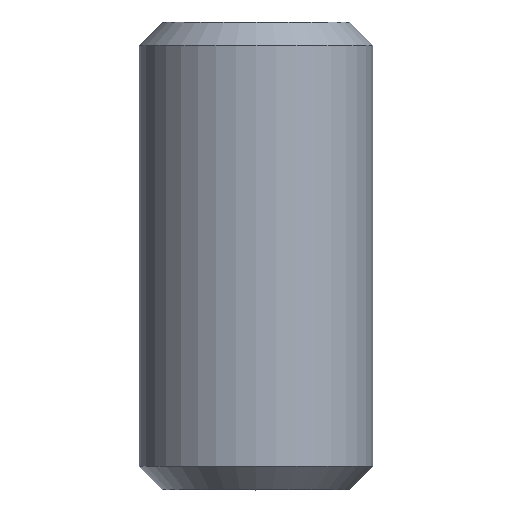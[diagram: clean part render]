
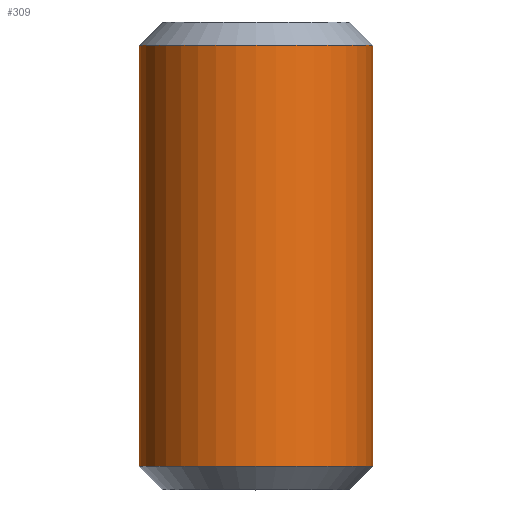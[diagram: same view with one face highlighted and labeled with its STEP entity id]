
A CAD part, top view. The second image highlights one B-rep face of the part: STEP entity #309.
In plain terms, the highlighted cylindrical face has radius 4 mm (diameter 8 mm), a full revolution.
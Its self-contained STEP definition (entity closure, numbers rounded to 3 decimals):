
#21=CYLINDRICAL_SURFACE('',#346,4.);
#84=ORIENTED_EDGE('',*,*,#159,.F.);
#85=ORIENTED_EDGE('',*,*,#158,.T.);
#158=EDGE_CURVE('',#196,#196,#217,.T.);
#159=EDGE_CURVE('',#197,#197,#218,.T.);
#196=VERTEX_POINT('',#494);
#197=VERTEX_POINT('',#497);
#217=CIRCLE('',#345,4.);
#218=CIRCLE('',#347,4.);
#234=EDGE_LOOP('',(#84));
#235=EDGE_LOOP('',(#85));
#264=FACE_BOUND('',#234,.T.);
#265=FACE_BOUND('',#235,.T.);
#309=ADVANCED_FACE('',(#264,#265),#21,.T.);
#345=AXIS2_PLACEMENT_3D('',#493,#392,#393);
#346=AXIS2_PLACEMENT_3D('',#495,#394,#395);
#347=AXIS2_PLACEMENT_3D('',#496,#396,#397);
#392=DIRECTION('',(0.,-1.,0.));
#393=DIRECTION('',(1.,0.,0.));
#394=DIRECTION('',(0.,-1.,0.));
#395=DIRECTION('',(1.,0.,0.));
#396=DIRECTION('',(0.,-1.,0.));
#397=DIRECTION('',(1.,0.,0.));
#493=CARTESIAN_POINT('',(0.,15.2,0.));
#494=CARTESIAN_POINT('',(4.,15.2,0.));
#495=CARTESIAN_POINT('',(0.,0.,0.));
#496=CARTESIAN_POINT('',(0.,0.8,0.));
#497=CARTESIAN_POINT('',(4.,0.8,0.));
